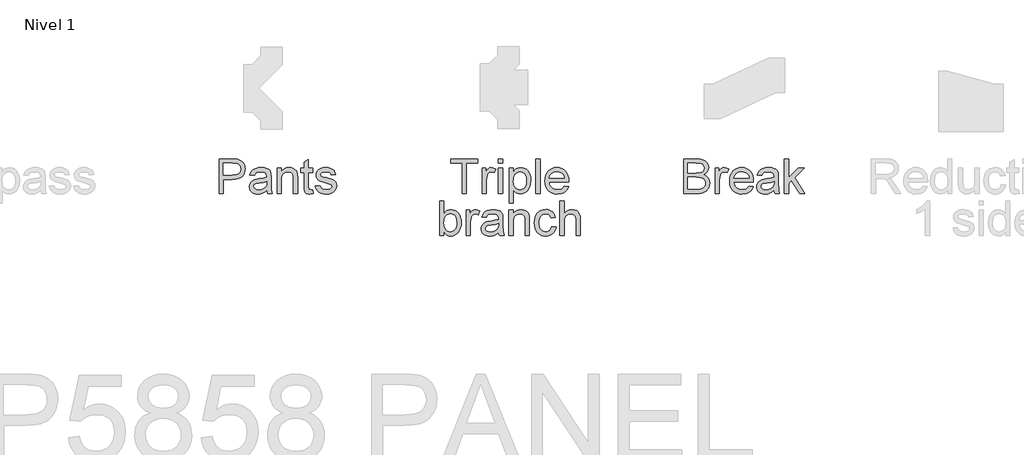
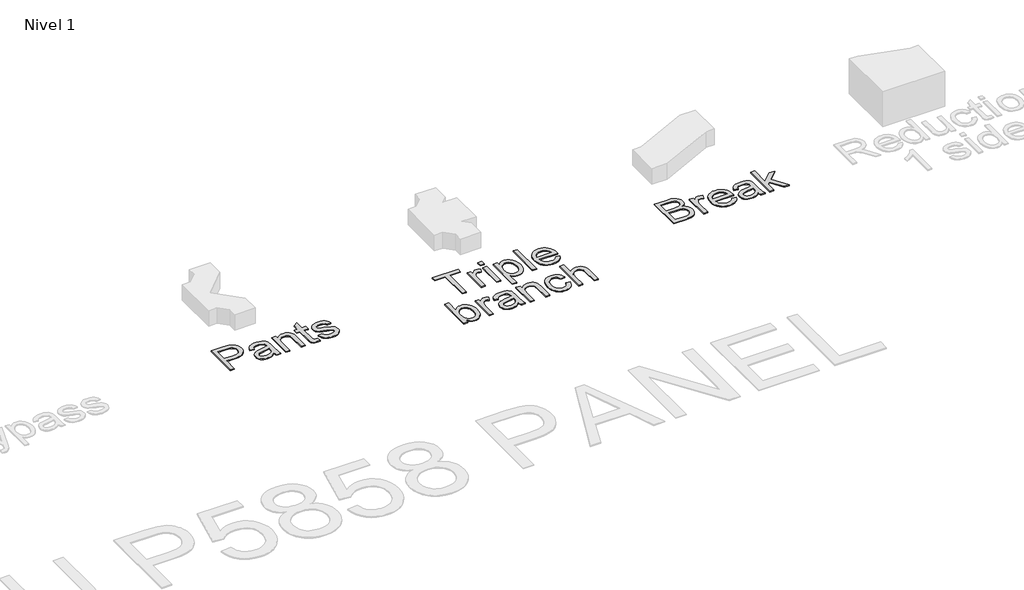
# One storey, part 5 of 7: 3 proxies.
"""IFC4 building model written with IfcOpenShell, lengths in millimetres."""

import ifcopenshell
import ifcopenshell.guid

model = None  # the IFC model being written
_history = None  # IfcOwnerHistory: only IFC2X3 demands one
_inside = {}  # id of a spatial element -> (the spatial element, [elements in it])
_under = {}  # id of a project, library or spatial element -> (it, [spatial elements below it])
_declared = {}  # id of a project -> (the project, [libraries it declares])
_typed = {}  # id of a type object -> (the type object, [elements of that type])
_made_of = {}  # id of a material, layer set ... -> (it, [elements and type objects made of it])


def new_model(schema):
    """Start an empty IFC model of exactly this schema.

    Asked for "IFC4X3", IfcOpenShell would pick the latest addendum, in which some entities
    have other attributes; the version numbers below select the first issue.
    IFC2X3 requires an IfcOwnerHistory on every rooted entity: one is made here for all.
    """
    global model, _history
    if schema == "IFC4X3":
        model = ifcopenshell.file(schema_version=(4, 3, 0, 0))
    else:
        model = ifcopenshell.file(schema=schema)
    _inside.clear()
    _under.clear()
    _declared.clear()
    _typed.clear()
    _made_of.clear()
    _history = None
    if model.schema == "IFC2X3":
        org = make("IfcOrganization", Name="unknown")
        user = make(
            "IfcPersonAndOrganization",
            ThePerson=make("IfcPerson", FamilyName="unknown"),
            TheOrganization=org,
        )
        app = make(
            "IfcApplication",
            ApplicationDeveloper=org,
            Version="unknown",
            ApplicationFullName="unknown",
            ApplicationIdentifier="unknown",
        )
        _history = make(
            "IfcOwnerHistory",
            OwningUser=user,
            OwningApplication=app,
            ChangeAction="ADDED",
            CreationDate=0,
        )
    return model


def make(cls, **values):
    """One entity of the class cls with the attributes given. An attribute that is None is left unset."""
    return model.create_entity(
        cls, **{name: value for name, value in values.items() if value is not None}
    )


def rooted(cls, **values):
    """An entity with a GlobalId (a new one), such as an element, a storey or a relation."""
    return make(cls, GlobalId=ifcopenshell.guid.new(), OwnerHistory=_history, **values)


def si_unit(unit_type, name, prefix=None):
    """IfcSIUnit, for example si_unit("LENGTHUNIT", "METRE", prefix="MILLI")."""
    return make("IfcSIUnit", UnitType=unit_type, Prefix=prefix, Name=name)


def assignment(units):
    """IfcUnitAssignment: the units of a project."""
    return None if units is None else make("IfcUnitAssignment", Units=units)


def point(xyz):
    """IfcCartesianPoint."""
    return None if xyz is None else make("IfcCartesianPoint", Coordinates=xyz)


def direction(xyz):
    """IfcDirection."""
    return None if xyz is None else make("IfcDirection", DirectionRatios=xyz)


def frame(location, z_axis=None, x_axis=None):
    """IfcAxis2Placement3D, a coordinate frame: its origin and axes. An axis left out is left unset."""
    return make(
        "IfcAxis2Placement3D",
        Location=point(location),
        Axis=direction(z_axis),
        RefDirection=direction(x_axis),
    )


def origin():
    """The frame at (0, 0, 0) with its axes left unset."""
    return frame((0.0, 0.0, 0.0))


def origin_with_axes():
    """The frame at (0, 0, 0) with the z axis (0, 0, 1) and the x axis (1, 0, 0) written out."""
    return frame((0.0, 0.0, 0.0), z_axis=(0.0, 0.0, 1.0), x_axis=(1.0, 0.0, 0.0))


def place(relative_to, where):
    """IfcLocalPlacement: puts the frame where relative to a parent placement (None: the world)."""
    return make(
        "IfcLocalPlacement", PlacementRelTo=relative_to, RelativePlacement=where
    )


def context(
    kind, dimensions, precision=None, world=None, true_north=None, identifier=None
):
    """IfcGeometricRepresentationContext, for example the 3D "Model" context."""
    return make(
        "IfcGeometricRepresentationContext",
        ContextIdentifier=identifier,
        ContextType=kind,
        CoordinateSpaceDimension=dimensions,
        Precision=precision,
        WorldCoordinateSystem=world,
        TrueNorth=true_north,
    )


def project(units=None, contexts=None):
    """IfcProject with its units and contexts."""
    return rooted(
        "IfcProject",
        Name="project",
        RepresentationContexts=contexts,
        UnitsInContext=assignment(units),
    )


def spatial(cls, under=None, at=None, **own):
    """A site, building, storey or space (cls), placed at a placement, below another one or the project."""
    s = rooted(cls, ObjectPlacement=at, **own)
    if under is not None:
        _under.setdefault(under.id(), (under, []))[1].append(s)
    return s


def polyline(points):
    """IfcPolyline through the points."""
    return make("IfcPolyline", Points=[point(p) for p in points])


def outline(outer, holes=None, kind="AREA"):
    """IfcArbitraryClosedProfileDef: a profile drawn as a closed curve; with holes, ...WithVoids."""
    if holes is None:
        return make("IfcArbitraryClosedProfileDef", ProfileType=kind, OuterCurve=outer)
    return make(
        "IfcArbitraryProfileDefWithVoids",
        ProfileType=kind,
        OuterCurve=outer,
        InnerCurves=holes,
    )


def extrude(swept, where, along, depth):
    """IfcExtrudedAreaSolid: the profile swept, set in the frame where, extruded along a direction by depth."""
    return make(
        "IfcExtrudedAreaSolid",
        SweptArea=swept,
        Position=where,
        ExtrudedDirection=direction(along),
        Depth=depth,
    )


def shape(context_of_items, identifier, shape_type, items):
    """IfcShapeRepresentation: the items that make up one representation, for example the "Body"."""
    return make(
        "IfcShapeRepresentation",
        ContextOfItems=context_of_items,
        RepresentationIdentifier=identifier,
        RepresentationType=shape_type,
        Items=items,
    )


def made_of(thing, what):
    """Note that an element or type object is made of a material, layer set ...; save() writes the relation."""
    if what is not None:
        _made_of.setdefault(what.id(), (what, []))[1].append(thing)
    return thing


def element(
    cls,
    number,
    at=None,
    inside=None,
    cuts=None,
    type_object=None,
    material=None,
    context=None,
    identifier="Body",
    shape_type=None,
    held_by="IfcProductDefinitionShape",
    body=None,
    shapes=None,
    **own,
):
    """One element of the class cls, such as IfcWall. Its Tag is "e" and its number.

    at: its placement. inside: the storey or other place that contains it. cuts: it is an
    opening in that element (IfcRelVoidsElement). A single representation is given by context,
    identifier, shape_type and body (its items); several are given by shapes. held_by: the class
    of the entity that holds the representations. save() writes the other relations.
    """
    e = rooted(cls, Tag="e%d" % number, ObjectPlacement=at, **own)
    if body is not None:
        shapes = [shape(context, identifier, shape_type, body)]
    if shapes is not None:
        e.Representation = make(held_by, Representations=shapes)
    if inside is not None:
        _inside.setdefault(inside.id(), (inside, []))[1].append(e)
    if cuts is not None:
        rooted(
            "IfcRelVoidsElement", RelatingBuildingElement=cuts, RelatedOpeningElement=e
        )
    if type_object is not None:
        _typed.setdefault(type_object.id(), (type_object, []))[1].append(e)
    return made_of(e, material)


def aggregate(whole, parts):
    """IfcRelAggregates: a whole, such as a stair, and the parts it consists of."""
    return rooted("IfcRelAggregates", RelatingObject=whole, RelatedObjects=parts)


def save(model, path):
    """Write the relations noted so far, then the file.

    IfcRelAggregates (storeys below a building ...), IfcRelContainedInSpatialStructure (elements
    in a storey), IfcRelDefinesByType, IfcRelAssociatesMaterial and IfcRelDeclares: one each for
    every whole, place, type object, material and project.
    """
    for whole, parts in _under.values():
        aggregate(whole, parts)
    for where, things in _inside.values():
        rooted(
            "IfcRelContainedInSpatialStructure",
            RelatedElements=things,
            RelatingStructure=where,
        )
    for kind, things in _typed.values():
        rooted("IfcRelDefinesByType", RelatedObjects=things, RelatingType=kind)
    for what, things in _made_of.values():
        rooted("IfcRelAssociatesMaterial", RelatedObjects=things, RelatingMaterial=what)
    for by, libraries in _declared.values():
        rooted("IfcRelDeclares", RelatingContext=by, RelatedDefinitions=libraries)
    model.write(path)


model = new_model("IFC4")

# Units and contexts
model_context = context("Model", 3, world=origin())
ifc_project = project(units=[si_unit("LENGTHUNIT", "METRE", prefix="MILLI")], contexts=[model_context])

# Site, building, storey
site = spatial("IfcSite", under=ifc_project)
building = spatial("IfcBuilding", under=site)
storey = spatial("IfcBuildingStorey", under=building, Name="Nivel 1", Elevation=0.0)

# Proxies
placement = place(None, origin())
element("IfcBuildingElementProxy", 1, Name="Texto de modelo 1", ObjectType="Texto de modelo 1", at=placement, inside=storey, context=model_context, shape_type="SweptSolid", body=[
    extrude(outline(polyline([(-3223.4257208, -4316.3248037), (-3223.4257208, -3914.4995631), (-3074.5070891, -3914.4995631), (-3014.4687475, -3918.3255358), (-2987.699201, -3925.4747093), (-2965.6630695, -3937.1120431), (-2947.9188946, -3953.7648347), (-2934.0252179, -3975.9603818), (-2925.0488972, -4002.1413171), (-2922.0567903, -4030.7502736), (-2924.0770756, -4055.4167613), (-2930.1379315, -4078.1089491), (-2940.2393579, -4098.8268368), (-2954.3813549, -4117.5704244), (-2973.7963272, -4133.1073074), (-2999.7166795, -4144.2050809), (-3032.1424117, -4150.863745), (-3071.0735238, -4153.0832997), (-3173.1975657, -4153.0832997), (-3173.1975657, -4316.3248037), (-3223.4257208, -4316.3248037)]), holes=[polyline([(-3173.1975657, -4102.8551446), (-3068.1304679, -4102.8551446), (-3023.592221, -4098.244357), (-3006.9884803, -4092.4808724), (-2994.1616614, -4084.4119939), (-2984.5905981, -4074.2523195), (-2977.7541244, -4062.2164469), (-2972.2849454, -4032.5161071), (-2975.5100442, -4009.9526781), (-2985.1853407, -3990.9209162), (-3000.1090869, -3976.5980439), (-3019.0795352, -3968.1612835), (-3069.3076902, -3964.7277182), (-3173.1975657, -3964.7277182), (-3173.1975657, -4102.8551446)])]), origin_with_axes(), (0.0, 0.0, 1.0), 10.0),
    extrude(outline(polyline([(-2670.9160149, -4278.6536874), (-2694.9141838, -4299.2305537), (-2719.6235911, -4312.6950347), (-2745.6083227, -4320.126251), (-2773.4324643, -4322.6033231), (-2795.7966239, -4321.113401), (-2815.4077999, -4316.6436348), (-2832.2659923, -4309.1940244), (-2846.3712012, -4298.7645698), (-2857.5088286, -4286.0174587), (-2865.4642767, -4271.6148785), (-2870.2375456, -4255.5568295), (-2871.8286352, -4237.8433114), (-2869.4251395, -4217.0211905), (-2862.2146524, -4198.1120559), (-2851.0923534, -4181.9252481), (-2836.9534221, -4169.2701075), (-2820.3374186, -4159.7051756), (-2801.7839034, -4152.7889941), (-2758.324777, -4145.2351505), (-2706.9684505, -4137.2888994), (-2671.2103205, -4127.9692222), (-2670.9160149, -4116.7856095), (-2674.3741057, -4094.3693333), (-2684.748378, -4079.7031044), (-2707.9494691, -4068.8137973), (-2740.2740338, -4065.1840283), (-2770.1951027, -4067.5997868), (-2791.0908, -4074.8470621), (-2805.340096, -4088.2502294), (-2815.3219608, -4109.133664), (-2865.5501158, -4102.8551446), (-2856.8313126, -4075.3866223), (-2843.8205527, -4053.8042119), (-2825.3038256, -4037.2985731), (-2800.0671207, -4025.0603654), (-2769.2018213, -4017.4819963), (-2733.7993106, -4014.9558732), (-2699.8438025, -4017.1876907), (-2672.9271032, -4023.883143), (-2652.6322798, -4033.9508469), (-2638.5423994, -4046.2994192), (-2629.1981967, -4061.566522), (-2623.1404065, -4080.3898175), (-2620.6878599, -4124.3394531), (-2620.6878599, -4186.8303414), (-2618.1372114, -4274.0919506), (-2608.1308211, -4316.3248037), (-2658.3589762, -4316.3248037), (-2666.4033291, -4298.8626717), (-2670.9160149, -4278.6536874)]), holes=[polyline([(-2670.9160149, -4178.1973772), (-2704.6630566, -4186.5605613), (-2751.9481557, -4193.5993701), (-2795.1620274, -4201.7418249), (-2806.4069538, -4207.3091058), (-2814.7333496, -4214.9855768), (-2819.8836975, -4224.1826266), (-2821.6004802, -4234.3116442), (-2817.8603465, -4249.2476532), (-2806.6399457, -4261.4858609), (-2788.1845323, -4269.6528412), (-2762.7393609, -4272.375168), (-2735.7613479, -4269.3707984), (-2711.9225947, -4260.3576895), (-2692.5965272, -4247.0771495), (-2679.1565716, -4231.2704864), (-2673.1968833, -4214.9855768), (-2671.2103205, -4192.4221477), (-2670.9160149, -4178.1973772)])]), origin_with_axes(), (0.0, 0.0, 1.0), 10.0),
    extrude(outline(polyline([(-2551.6241466, -4316.3248037), (-2551.6241466, -4021.2343926), (-2501.3959916, -4021.2343926), (-2501.3959916, -4062.4371761), (-2483.9461223, -4041.6641061), (-2462.9891113, -4026.826199), (-2438.5249586, -4017.9234547), (-2410.5536642, -4014.9558732), (-2385.7952059, -4017.3471062), (-2363.1214123, -4024.5208051), (-2344.2122777, -4035.5817904), (-2330.7477967, -4049.6348827), (-2321.6120605, -4066.6432936), (-2315.6891604, -4086.570235), (-2313.04041, -4135.1306583), (-2313.04041, -4316.3248037), (-2363.2685651, -4316.3248037), (-2363.2685651, -4141.899687), (-2364.7155676, -4115.9272182), (-2369.0565752, -4097.459542), (-2377.0641399, -4084.2280529), (-2389.5108141, -4073.9641453), (-2405.4646299, -4067.3790576), (-2423.9936198, -4065.1840283), (-2453.4119167, -4070.1136471), (-2478.489206, -4084.9025033), (-2488.5109247, -4096.9751641), (-2495.6692952, -4113.4746716), (-2499.9643175, -4134.4010257), (-2501.3959916, -4159.7542265), (-2501.3959916, -4316.3248037), (-2551.6241466, -4316.3248037)])), origin_with_axes(), (0.0, 0.0, 1.0), 10.0),
    extrude(outline(polyline([(-2137.2418673, -4274.4353072), (-2130.9633479, -4317.7963317), (-2168.5363623, -4322.6033231), (-2192.6448957, -4320.5186584), (-2210.6220626, -4314.2646645), (-2223.3262541, -4304.6261562), (-2231.6158618, -4292.3879485), (-2236.1775985, -4271.3696239), (-2237.6981774, -4235.3907648), (-2237.6981774, -4071.4625477), (-2275.3692937, -4071.4625477), (-2275.3692937, -4021.2343926), (-2237.6981774, -4021.2343926), (-2237.6981774, -3949.521929), (-2187.4700223, -3919.9932676), (-2187.4700223, -4021.2343926), (-2137.2418673, -4021.2343926), (-2137.2418673, -4071.4625477), (-2187.4700223, -4071.4625477), (-2187.4700223, -4233.9192368), (-2184.821272, -4259.8181292), (-2176.2373588, -4268.9906536), (-2159.1185832, -4272.375168), (-2137.2418673, -4274.4353072)])), origin_with_axes(), (0.0, 0.0, 1.0), 10.0),
    extrude(outline(polyline([(-2105.8492703, -4228.4255323), (-2055.6211153, -4222.1470129), (-2047.6993896, -4243.6313214), (-2032.3709732, -4259.4257218), (-2009.537764, -4269.1378064), (-1979.1016603, -4272.375168), (-1949.0334385, -4269.4075866), (-1927.8924865, -4260.5048423), (-1915.3844987, -4247.604447), (-1911.2151694, -4232.6439125), (-1915.4090242, -4219.8416191), (-1927.9905884, -4210.0804835), (-1979.6902715, -4195.7576111), (-2055.3268097, -4171.1830939), (-2074.4689362, -4158.8345216), (-2088.3380874, -4142.4882982), (-2096.7625851, -4123.1867562), (-2099.570751, -4101.9722278), (-2097.3144081, -4082.5112703), (-2090.5453793, -4064.5463662), (-2079.8768015, -4048.7887541), (-2065.9218111, -4035.9496724), (-2033.9896539, -4021.0872398), (-2013.1062194, -4016.4887149), (-1990.7757822, -4014.9558732), (-1958.0833356, -4017.4206826), (-1929.6583201, -4024.8151107), (-1906.8005855, -4036.4156563), (-1890.8099814, -4051.4988181), (-1880.21498, -4071.1805048), (-1873.5440531, -4096.5766252), (-1923.7722082, -4102.8551446), (-1930.1120412, -4087.0484816), (-1942.6568173, -4075.1413677), (-1961.5291636, -4067.6733632), (-1986.8517076, -4065.1840283), (-2015.6936561, -4067.5629986), (-2034.9216217, -4074.6999093), (-2045.7373523, -4085.0006051), (-2049.3425959, -4096.8709308), (-2043.3583821, -4111.4881088), (-2024.6209258, -4122.5736196), (-1981.3580032, -4133.2667229), (-1907.6344513, -4156.9092725), (-1888.1612311, -4168.2155124), (-1873.3969003, -4183.6910817), (-1864.0894858, -4203.3850312), (-1860.9870144, -4227.3464118), (-1864.6290461, -4252.1171328), (-1875.5551414, -4275.4163258), (-1893.3483672, -4295.4168436), (-1917.5917907, -4310.291539), (-1946.8751975, -4319.5253771), (-1979.7883733, -4322.6033231), (-2006.8215686, -4321.1195324), (-2030.4334613, -4316.6681602), (-2050.6240515, -4309.2492067), (-2067.3933391, -4298.8626717), (-2081.0908121, -4285.5576062), (-2092.0659583, -4269.3830611), (-2100.3187777, -4250.3390365), (-2105.8492703, -4228.4255323)])), origin_with_axes(), (0.0, 0.0, 1.0), 10.0),
])
element("IfcBuildingElementProxy", 2, Name="Texto de modelo 1", ObjectType="Texto de modelo 1", at=placement, inside=storey, context=model_context, shape_type="SweptSolid", body=[
    extrude(outline(polyline([(2160.8779808, -4316.3248037), (2160.8779808, -3914.4995631), (2314.2111964, -3914.4995631), (2356.3827358, -3917.4548818), (2389.3081743, -3926.3208379), (2414.5448792, -3941.3181605), (2433.6502175, -3962.667579), (2445.6799587, -3987.7816565), (2449.6898725, -4014.0729565), (2446.3176208, -4038.267329), (2436.200866, -4061.014699), (2419.2660315, -4080.917115), (2395.4395409, -4096.5766252), (2423.9013446, -4111.4390578), (2444.931932, -4134.0515378), (2457.9181664, -4162.9180117), (2462.2469112, -4196.5424261), (2459.2915925, -4224.5627714), (2450.4256365, -4250.547503), (2437.1941474, -4272.6449481), (2421.1422296, -4289.0034342), (2401.4850684, -4300.8492344), (2377.4378486, -4309.4086222), (2348.2157555, -4314.5957583), (2313.033974, -4316.3248037), (2160.8779808, -4316.3248037)]), holes=[polyline([(2211.1061359, -4077.7410671), (2302.83138, -4077.7410671), (2356.3949985, -4073.424585), (2375.1447175, -4065.981106), (2388.6214613, -4054.8342815), (2396.7516534, -4040.1557899), (2399.4617174, -4022.1173094), (2396.9355944, -4004.6061264), (2389.3572253, -3989.3512864), (2377.0699666, -3977.4441725), (2360.417175, -3969.976168), (2334.861639, -3966.0398306), (2295.8661475, -3964.7277182), (2211.1061359, -3964.7277182), (2211.1061359, -4077.7410671)]), polyline([(2211.1061359, -4266.0966486), (2314.1130945, -4266.0966486), (2351.3918034, -4264.1346113), (2382.9315531, -4253.1962533), (2394.5075732, -4243.7662115), (2403.8272504, -4230.8780789), (2409.9708797, -4215.1082041), (2412.0187562, -4197.0329354), (2409.6152605, -4176.0391362), (2402.4047734, -4157.988393), (2389.8109464, -4143.8739871), (2371.2574311, -4134.6891999), (2344.9783939, -4129.6492166), (2309.2080012, -4127.9692222), (2211.1061359, -4127.9692222), (2211.1061359, -4266.0966486)])]), origin_with_axes(), (0.0, 0.0, 1.0), 10.0),
    extrude(outline(polyline([(2525.0321051, -4316.3248037), (2525.0321051, -4021.2343926), (2568.9817408, -4021.2343926), (2568.9817408, -4064.8897227), (2585.2175995, -4039.5794415), (2600.178134, -4024.6679579), (2615.1877194, -4017.3838944), (2631.5707309, -4014.9558732), (2656.5867066, -4018.8308969), (2681.9950897, -4030.455968), (2665.2196707, -4075.4847242), (2647.5613349, -4067.7592023), (2629.9029992, -4065.1840283), (2614.9056765, -4067.6611004), (2601.5025091, -4075.0923167), (2590.6745157, -4086.9135915), (2583.402715, -4102.560839), (2577.2958739, -4130.6179725), (2575.2602602, -4161.2257545), (2575.2602602, -4316.3248037), (2525.0321051, -4316.3248037)])), origin_with_axes(), (0.0, 0.0, 1.0), 10.0),
    extrude(outline(polyline([(2919.9902151, -4228.4255323), (2969.2373515, -4234.7040517), (2961.6865736, -4254.428658), (2951.4931766, -4271.8110823), (2938.6571607, -4286.8513245), (2923.1785257, -4299.5493847), (2905.2166873, -4309.6354827), (2884.931061, -4316.8398385), (2837.3884444, -4322.6033231), (2806.2227081, -4320.1170539), (2778.4537488, -4312.6582465), (2754.0815666, -4300.2269007), (2733.1061615, -4282.8230167), (2716.2387721, -4260.9309723), (2704.1906367, -4235.0351455), (2696.9617555, -4205.1355363), (2694.5521285, -4171.2321448), (2696.986281, -4136.179122), (2704.2887386, -4105.2831658), (2716.4595013, -4078.5442761), (2733.498569, -4055.962453), (2754.4187918, -4038.0220743), (2778.2330196, -4025.2075182), (2804.9412525, -4017.5187845), (2834.5434904, -4014.9558732), (2863.1923007, -4017.5126531), (2889.1003902, -4025.1829927), (2912.2677589, -4037.966892), (2932.6944067, -4055.8643511), (2949.3686581, -4078.3971233), (2961.2788377, -4105.0869621), (2968.4249454, -4135.9338674), (2970.8069814, -4170.9378392), (2970.5126758, -4184.4758966), (2744.7802835, -4184.4758966), (2747.689617, -4204.519334), (2753.4745613, -4222.0734365), (2762.1351167, -4237.1382042), (2773.6712829, -4249.7136371), (2787.4453979, -4259.6280569), (2802.8197996, -4266.7097853), (2838.3694631, -4272.375168), (2865.1022214, -4269.7509431), (2887.6165995, -4261.8782684), (2905.9125974, -4248.2666346), (2919.9902151, -4228.4255323)]), holes=[polyline([(2744.7802835, -4134.2477415), (2920.5788263, -4134.2477415), (2913.7852721, -4107.711187), (2900.4679439, -4088.728476), (2886.7704709, -4078.4277801), (2871.1845371, -4071.0701402), (2853.7101423, -4066.6555563), (2834.3472866, -4065.1840283), (2800.4898803, -4069.8806551), (2772.4940605, -4083.9705355), (2753.033103, -4105.9330907), (2744.7802835, -4134.2477415)])]), origin_with_axes(), (0.0, 0.0, 1.0), 10.0),
    extrude(outline(polyline([(3209.390718, -4278.6536874), (3185.3925492, -4299.2305537), (3160.6831418, -4312.6950347), (3134.6984102, -4320.126251), (3106.8742686, -4322.6033231), (3084.510109, -4321.113401), (3064.898933, -4316.6436348), (3048.0407406, -4309.1940244), (3033.9355317, -4298.7645698), (3022.7979043, -4286.0174587), (3014.8424562, -4271.6148785), (3010.0691873, -4255.5568295), (3008.4780977, -4237.8433114), (3010.8815934, -4217.0211905), (3018.0920805, -4198.1120559), (3029.2143795, -4181.9252481), (3043.3533108, -4169.2701075), (3059.9693143, -4159.7051756), (3078.5228296, -4152.7889941), (3121.9819559, -4145.2351505), (3173.3382824, -4137.2888994), (3209.0964124, -4127.9692222), (3209.390718, -4116.7856095), (3205.9326272, -4094.3693333), (3195.558355, -4079.7031044), (3172.3572638, -4068.8137973), (3140.0326991, -4065.1840283), (3110.1116302, -4067.5997868), (3089.2159329, -4074.8470621), (3074.9666369, -4088.2502294), (3064.9847721, -4109.133664), (3014.7566171, -4102.8551446), (3023.4754203, -4075.3866223), (3036.4861802, -4053.8042119), (3055.0029073, -4037.2985731), (3080.2396122, -4025.0603654), (3111.1049116, -4017.4819963), (3146.5074223, -4014.9558732), (3180.4629304, -4017.1876907), (3207.3796297, -4023.883143), (3227.6744531, -4033.9508469), (3241.7643335, -4046.2994192), (3251.1085362, -4061.566522), (3257.1663264, -4080.3898175), (3259.618873, -4124.3394531), (3259.618873, -4186.8303414), (3262.1695215, -4274.0919506), (3272.1759118, -4316.3248037), (3221.9477567, -4316.3248037), (3213.9034038, -4298.8626717), (3209.390718, -4278.6536874)]), holes=[polyline([(3209.390718, -4178.1973772), (3175.6436763, -4186.5605613), (3128.3585772, -4193.5993701), (3085.1447055, -4201.7418249), (3073.8997791, -4207.3091058), (3065.5733833, -4214.9855768), (3060.4230354, -4224.1826266), (3058.7062527, -4234.3116442), (3062.4463864, -4249.2476532), (3073.6667872, -4261.4858609), (3092.1222006, -4269.6528412), (3117.567372, -4272.375168), (3144.545385, -4269.3707984), (3168.3841382, -4260.3576895), (3187.7102057, -4247.0771495), (3201.1501613, -4231.2704864), (3207.1098496, -4214.9855768), (3209.0964124, -4192.4221477), (3209.390718, -4178.1973772)])]), origin_with_axes(), (0.0, 0.0, 1.0), 10.0),
    extrude(outline(polyline([(3328.6825863, -4316.3248037), (3328.6825863, -3914.4995631), (3378.9107413, -3914.4995631), (3378.9107413, -4130.4217688), (3491.5316828, -4021.2343926), (3560.9878035, -4021.2343926), (3446.9934359, -4131.7951949), (3567.2663229, -4316.3248037), (3508.6014074, -4316.3248037), (3410.9900513, -4166.719459), (3378.9107413, -4197.8177503), (3378.9107413, -4316.3248037), (3328.6825863, -4316.3248037)])), origin_with_axes(), (0.0, 0.0, 1.0), 10.0),
])
element("IfcBuildingElementProxy", 3, Name="Texto de modelo 1", ObjectType="Texto de modelo 1", at=placement, inside=storey, context=model_context, shape_type="SweptSolid", body=[
    extrude(outline(polyline([(-407.2731121, -4316.3248037), (-407.2731121, -3964.7277182), (-539.1220192, -3964.7277182), (-539.1220192, -3914.4995631), (-225.19605, -3914.4995631), (-225.19605, -3964.7277182), (-357.0449571, -3964.7277182), (-357.0449571, -4316.3248037), (-407.2731121, -4316.3248037)])), origin_with_axes(), (0.0, 0.0, 1.0), 10.0),
    extrude(outline(polyline([(-174.9678949, -4316.3248037), (-174.9678949, -4021.2343926), (-131.0182592, -4021.2343926), (-131.0182592, -4064.8897227), (-114.7824005, -4039.5794415), (-99.821866, -4024.6679579), (-84.8122806, -4017.3838944), (-68.4292691, -4014.9558732), (-43.4132934, -4018.8308969), (-18.0049103, -4030.455968), (-34.7803293, -4075.4847242), (-52.4386651, -4067.7592023), (-70.0970008, -4065.1840283), (-85.0943235, -4067.6611004), (-98.4974909, -4075.0923167), (-109.3254843, -4086.9135915), (-116.597285, -4102.560839), (-122.7041261, -4130.6179725), (-124.7397398, -4161.2257545), (-124.7397398, -4316.3248037), (-174.9678949, -4316.3248037)])), origin_with_axes(), (0.0, 0.0, 1.0), 10.0),
    extrude(outline(polyline([(13.3876866, -3964.7277182), (13.3876866, -3914.4995631), (63.6158417, -3914.4995631), (63.6158417, -3964.7277182), (13.3876866, -3964.7277182)])), origin_with_axes(), (0.0, 0.0, 1.0), 10.0),
    extrude(outline(polyline([(13.3876866, -4316.3248037), (13.3876866, -4021.2343926), (63.6158417, -4021.2343926), (63.6158417, -4316.3248037), (13.3876866, -4316.3248037)])), origin_with_axes(), (0.0, 0.0, 1.0), 10.0),
    extrude(outline(polyline([(138.9580743, -4429.3381526), (138.9580743, -4021.2343926), (189.1862294, -4021.2343926), (189.1862294, -4070.4815291), (205.5692409, -4046.1890546), (223.9142897, -4028.8372872), (245.3004964, -4018.4262267), (270.8069814, -4014.9558732), (304.7747523, -4019.8119156), (334.475092, -4034.3800426), (358.6572018, -4057.7773375), (376.0702829, -4089.1208835), (386.591708, -4126.1298122), (390.0988497, -4166.5232553), (386.1379869, -4209.4796096), (374.2553984, -4247.8987526), (354.8312291, -4279.8309098), (328.2456235, -4303.3263065), (297.2822223, -4317.7840689), (264.7246657, -4322.6033231), (241.6339391, -4319.3782243), (221.0202847, -4309.7029278), (203.3742116, -4295.0980126), (189.1862294, -4277.0840575), (189.1862294, -4429.3381526), (138.9580743, -4429.3381526)]), holes=[polyline([(189.1862294, -4171.1340429), (194.6186202, -4216.1627991), (201.4091087, -4233.6004057), (210.9157926, -4247.6534979), (234.9630123, -4266.1947505), (248.7248646, -4270.8300636), (263.6455452, -4272.375168), (278.7808236, -4270.7748813), (292.7940619, -4265.9740213), (305.6852602, -4257.9725879), (317.4544184, -4246.7705811), (327.2615392, -4232.2085855), (334.2666255, -4214.1271854), (338.4696773, -4192.526381), (339.8706946, -4167.406172), (334.4015156, -4122.6226705), (327.5650419, -4105.0501739), (317.9939786, -4090.6905133), (293.9835471, -4071.5606496), (280.3780446, -4066.7781836), (265.7056844, -4065.1840283), (251.0793094, -4066.8793512), (237.3174571, -4071.9653198), (212.3873205, -4092.3091941), (202.2368431, -4107.4076843), (194.9865022, -4125.5779892), (190.6362976, -4146.8201087), (189.1862294, -4171.1340429)])]), origin_with_axes(), (0.0, 0.0, 1.0), 10.0),
    extrude(outline(polyline([(446.6055241, -4316.3248037), (446.6055241, -3914.4995631), (496.8336792, -3914.4995631), (496.8336792, -4316.3248037), (446.6055241, -4316.3248037)])), origin_with_axes(), (0.0, 0.0, 1.0), 10.0),
    extrude(outline(polyline([(778.7784403, -4228.4255323), (828.0255767, -4234.7040517), (820.4747988, -4254.428658), (810.2814018, -4271.8110823), (797.4453859, -4286.8513245), (781.9667509, -4299.5493847), (764.0049125, -4309.6354827), (743.7192862, -4316.8398385), (696.1766697, -4322.6033231), (665.0109333, -4320.1170539), (637.241974, -4312.6582465), (612.8697918, -4300.2269007), (591.8943868, -4282.8230167), (575.0269973, -4260.9309723), (562.9788619, -4235.0351455), (555.7499807, -4205.1355363), (553.3403537, -4171.2321448), (555.7745062, -4136.179122), (563.0769638, -4105.2831658), (575.2477265, -4078.5442761), (592.2867942, -4055.962453), (613.207017, -4038.0220743), (637.0212448, -4025.2075182), (663.7294777, -4017.5187845), (693.3317156, -4014.9558732), (721.9805259, -4017.5126531), (747.8886154, -4025.1829927), (771.0559841, -4037.966892), (791.4826319, -4055.8643511), (808.1568833, -4078.3971233), (820.0670629, -4105.0869621), (827.2131707, -4135.9338674), (829.5952066, -4170.9378392), (829.300901, -4184.4758966), (603.5685087, -4184.4758966), (606.4778422, -4204.519334), (612.2627866, -4222.0734365), (620.9233419, -4237.1382042), (632.4595081, -4249.7136371), (646.2336231, -4259.6280569), (661.6080248, -4266.7097853), (697.1576883, -4272.375168), (723.8904466, -4269.7509431), (746.4048247, -4261.8782684), (764.7008226, -4248.2666346), (778.7784403, -4228.4255323)]), holes=[polyline([(603.5685087, -4134.2477415), (779.3670515, -4134.2477415), (772.5734973, -4107.711187), (759.2561691, -4088.728476), (745.5586961, -4078.4277801), (729.9727623, -4071.0701402), (712.4983675, -4066.6555563), (693.1355118, -4065.1840283), (659.2781055, -4069.8806551), (631.2822857, -4083.9705355), (611.8213282, -4105.9330907), (603.5685087, -4134.2477415)])]), origin_with_axes(), (0.0, 0.0, 1.0), 10.0),
    extrude(outline(polyline([(-617.6035115, -4804.2240751), (-667.8316666, -4804.2240751), (-667.8316666, -4402.3988345), (-617.6035115, -4402.3988345), (-617.6035115, -4551.415568), (-601.0856099, -4530.1703828), (-582.4339928, -4514.9952505), (-561.6486601, -4505.8901711), (-538.7296118, -4502.8551446), (-512.8552448, -4505.5897341), (-488.4033548, -4513.7935026), (-466.7718935, -4526.9514153), (-449.3588124, -4544.5484374), (-435.7103904, -4566.4128907), (-425.3729063, -4592.3730968), (-418.861395, -4621.3499353), (-416.6908912, -4652.2642856), (-418.9380371, -4687.9365764), (-425.6794746, -4719.3169106), (-436.9152039, -4746.4052882), (-452.6452249, -4769.2017091), (-471.5267683, -4787.2708465), (-492.2170648, -4800.1773731), (-514.7161145, -4807.9212891), (-539.0239174, -4810.5025945), (-562.6971237, -4807.1732624), (-583.6847916, -4797.1852662), (-601.9869208, -4780.538606), (-617.6035115, -4757.2332816), (-617.6035115, -4804.2240751)]), holes=[polyline([(-617.6035115, -4654.6187304), (-614.1699462, -4696.5082269), (-603.8692504, -4724.859666), (-591.6984877, -4740.3536293), (-577.553425, -4751.420746), (-561.4340622, -4758.061016), (-543.3403994, -4760.2744394), (-528.3185513, -4758.6434959), (-514.3512982, -4753.7506653), (-501.4386402, -4745.5959478), (-489.5805772, -4734.1793432), (-479.6661574, -4719.5315084), (-472.584429, -4701.6831003), (-468.335392, -4680.6341188), (-466.9190463, -4656.3845639), (-472.3514371, -4610.42384), (-479.1419256, -4592.6306142), (-488.6486095, -4578.2954791), (-500.0805425, -4567.2651506), (-512.6467783, -4559.3863446), (-526.3473169, -4554.6590609), (-541.1821584, -4553.0832997), (-556.2040065, -4554.7142432), (-570.1712596, -4559.6070737), (-583.0839176, -4567.7617913), (-594.9419806, -4579.1783959), (-604.8564004, -4593.6790779), (-611.9381288, -4611.0860276), (-616.1871658, -4631.3992451), (-617.6035115, -4654.6187304)])]), origin_with_axes(), (0.0, 0.0, 1.0), 10.0),
    extrude(outline(polyline([(-360.1842168, -4804.2240751), (-360.1842168, -4509.133664), (-316.2345811, -4509.133664), (-316.2345811, -4552.7889941), (-299.9987224, -4527.4787128), (-285.0381879, -4512.5672293), (-270.0286025, -4505.2831658), (-253.645591, -4502.8551446), (-228.6296153, -4506.7301683), (-203.2212322, -4518.3552394), (-219.9966511, -4563.3839956), (-237.6549869, -4555.6584737), (-255.3133227, -4553.0832997), (-270.3106453, -4555.5603718), (-283.7138127, -4562.9915881), (-294.5418061, -4574.8128629), (-301.8136069, -4590.4601104), (-307.920448, -4618.5172439), (-309.9560617, -4649.1250259), (-309.9560617, -4804.2240751), (-360.1842168, -4804.2240751)])), origin_with_axes(), (0.0, 0.0, 1.0), 10.0),
    extrude(outline(polyline([(16.5269463, -4766.5529588), (-7.4712225, -4787.129825), (-32.1806299, -4800.5943061), (-58.1653615, -4808.0255224), (-85.989503, -4810.5025945), (-108.3536626, -4809.0126724), (-127.9648387, -4804.5429061), (-144.8230311, -4797.0932957), (-158.9282399, -4786.6638412), (-170.0658673, -4773.91673), (-178.0213155, -4759.5141499), (-182.7945844, -4743.4561008), (-184.385674, -4725.7425828), (-181.9821783, -4704.9204618), (-174.7716912, -4686.0113273), (-163.6493922, -4669.8245195), (-149.5104609, -4657.1693789), (-132.8944574, -4647.604447), (-114.3409421, -4640.6882655), (-70.8818158, -4633.1344219), (-19.5254892, -4625.1881708), (16.2326407, -4615.8684935), (16.5269463, -4604.6848809), (13.0688555, -4582.2686047), (2.6945833, -4567.6023758), (-20.5065079, -4556.7130687), (-52.8310725, -4553.0832997), (-82.7521415, -4555.4990581), (-103.6478388, -4562.7463334), (-117.8971347, -4576.1495008), (-127.8789995, -4597.0329354), (-178.1071546, -4590.754416), (-169.3883513, -4563.2858937), (-156.3775914, -4541.7034833), (-137.8608643, -4525.1978445), (-112.6241595, -4512.9596368), (-81.7588601, -4505.3812677), (-46.3563494, -4502.8551446), (-12.4008413, -4505.0869621), (14.5158581, -4511.7824144), (34.8106815, -4521.8501183), (48.9005619, -4534.1986906), (58.2447646, -4549.4657934), (64.3025547, -4568.2890888), (66.7551014, -4612.2387245), (66.7551014, -4674.7296128), (69.3057499, -4761.991222), (79.3121401, -4804.2240751), (29.0839851, -4804.2240751), (21.0396321, -4786.761943), (16.5269463, -4766.5529588)]), holes=[polyline([(16.5269463, -4666.0966486), (-17.2200954, -4674.4598326), (-64.5051945, -4681.4986415), (-107.7190662, -4689.6410963), (-118.9639925, -4695.2083772), (-127.2903883, -4702.8848481), (-132.4407363, -4712.081898), (-134.1575189, -4722.2109156), (-130.4173853, -4737.1469246), (-119.1969845, -4749.3851323), (-100.741571, -4757.5521126), (-75.2963997, -4760.2744394), (-48.3183867, -4757.2700698), (-24.4796334, -4748.2569609), (-5.153566, -4734.9764209), (8.2863896, -4719.1697578), (14.2460779, -4702.8848481), (16.2326407, -4680.3214191), (16.5269463, -4666.0966486)])]), origin_with_axes(), (0.0, 0.0, 1.0), 10.0),
    extrude(outline(polyline([(135.8188146, -4804.2240751), (135.8188146, -4509.133664), (186.0469697, -4509.133664), (186.0469697, -4550.3364475), (203.496839, -4529.5633775), (224.45385, -4514.7254703), (248.9180027, -4505.8227261), (276.889297, -4502.8551446), (301.6477553, -4505.2463776), (324.3215489, -4512.4200765), (343.2306835, -4523.4810618), (356.6951645, -4537.534154), (365.8309007, -4554.5425649), (371.7538008, -4574.4695064), (374.4025512, -4623.0299297), (374.4025512, -4804.2240751), (324.1743961, -4804.2240751), (324.1743961, -4629.7989584), (322.7273936, -4603.8264896), (318.3863861, -4585.3588134), (310.3788213, -4572.1273243), (297.9321471, -4561.8634167), (281.9783313, -4555.2783289), (263.4493415, -4553.0832997), (234.0310446, -4558.0129184), (208.9537552, -4572.8017746), (198.9320366, -4584.8744355), (191.7736661, -4601.3739429), (187.4786438, -4622.3002971), (186.0469697, -4647.6534979), (186.0469697, -4804.2240751), (135.8188146, -4804.2240751)])), origin_with_axes(), (0.0, 0.0, 1.0), 10.0),
    extrude(outline(polyline([(631.821846, -4697.4892455), (682.050001, -4703.7677649), (676.5869534, -4727.4685625), (668.0459598, -4748.4409019), (656.4270201, -4766.6847832), (641.7301344, -4782.2002063), (624.5745707, -4794.5825011), (605.579597, -4803.4269974), (584.7452133, -4808.7336952), (562.0714197, -4810.5025945), (533.9008559, -4808.0347194), (508.6426912, -4800.6310943), (486.2969257, -4788.291719), (466.8635593, -4771.0165936), (451.1335384, -4749.1306806), (439.8978091, -4722.9589423), (433.1563715, -4692.5013788), (430.9092257, -4657.7579901), (434.7474611, -4613.0603276), (446.2621676, -4574.3223536), (465.637286, -4543.0401212), (493.0567574, -4520.7096841), (525.8595686, -4507.3187795), (561.3847066, -4502.8551446), (583.6691585, -4504.3879863), (603.8260261, -4508.9865112), (621.8553096, -4516.6507194), (637.7570088, -4527.380611), (651.2613437, -4540.9309311), (662.0985342, -4557.0564252), (670.2685801, -4575.7570933), (675.7714817, -4597.0329354), (625.5433266, -4603.3114548), (616.4321158, -4581.3979506), (602.2441336, -4565.6893894), (583.7641947, -4556.2348221), (561.7771141, -4553.0832997), (544.7104552, -4554.6345354), (529.3176594, -4559.2882427), (515.5987266, -4567.0444214), (503.553657, -4577.9030716), (493.7465361, -4592.1155794), (486.7414498, -4609.9333307), (482.538398, -4631.3563255), (481.1373807, -4656.3845639), (486.6188225, -4703.4611966), (493.4706246, -4721.3985095), (503.0631477, -4735.6018202), (514.869094, -4746.3960911), (528.3611662, -4754.1062846), (543.5393642, -4758.7324007), (560.403688, -4760.2744394), (586.412945, -4756.4239412), (607.737838, -4744.8724465), (623.2501955, -4725.3256498), (631.821846, -4697.4892455)])), origin_with_axes(), (0.0, 0.0, 1.0), 10.0),
    extrude(outline(polyline([(725.9996367, -4804.2240751), (725.9996367, -4402.3988345), (776.2277918, -4402.3988345), (776.2277918, -4550.1402437), (794.6770739, -4529.4530129), (815.3949616, -4514.6764194), (838.3814549, -4505.8104633), (863.6365539, -4502.8551446), (893.9745557, -4506.0802435), (920.0451265, -4515.7555399), (940.5729418, -4531.1207446), (954.2826775, -4551.415568), (962.0081994, -4579.3010232), (964.5833733, -4617.4381234), (964.5833733, -4804.2240751), (914.3552183, -4804.2240751), (914.3552183, -4622.6375223), (910.3575672, -4591.1958744), (898.3646142, -4569.662515), (879.0385467, -4557.2281035), (853.0415524, -4553.0832997), (831.8147613, -4555.8792029), (811.8878199, -4564.2669124), (795.382181, -4577.4370878), (784.4192976, -4594.5803888), (778.2756682, -4617.364547), (776.2277918, -4647.4572942), (776.2277918, -4804.2240751), (725.9996367, -4804.2240751)])), origin_with_axes(), (0.0, 0.0, 1.0), 10.0),
])

save(model, "model.ifc")
